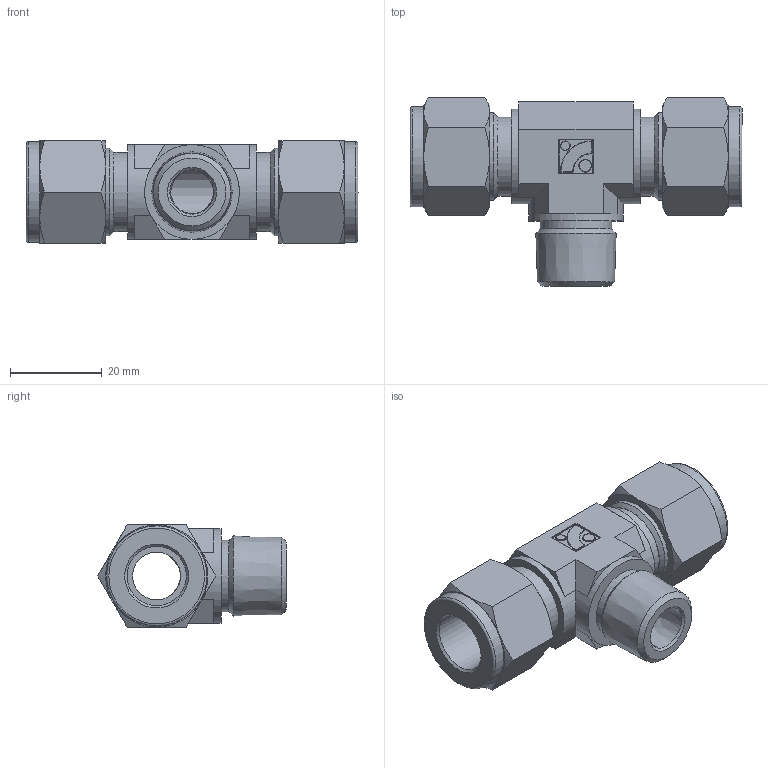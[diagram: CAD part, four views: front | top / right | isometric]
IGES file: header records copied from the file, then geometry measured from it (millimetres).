
Global section: file name: No Iges File Name specified; native system: Autodesk Inventor 2012; preprocessor: AutoDesk Inventor Iges Exporter R2012; author: 硅己绕,, ; organization: 11; date: 20150815.155223; units: millimetre
Bounding box: 72.2 x 41.03 x 22.22 mm (x, y, z)
Volume: 21784.7 mm3; surface area: 10715.4 mm2
Topology: 1 solids, 1 shells, 146 faces, 337 edges, 205 vertices
Faces by surface type: plane 62, cone 29, cylinder 23, revolution 22, torus 6, sphere 4
Full cylindrical faces by diameter (mm): 2.006 x1, 2.675 x1, 15.5 x1, 17.2 x2, 19.05 x2, 20.6 x3, 21.8 x2
